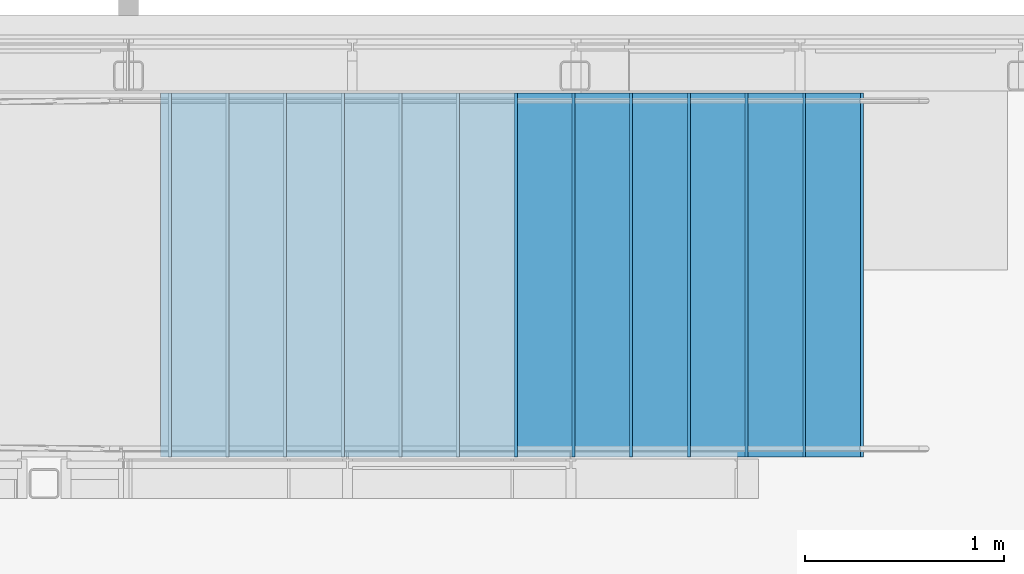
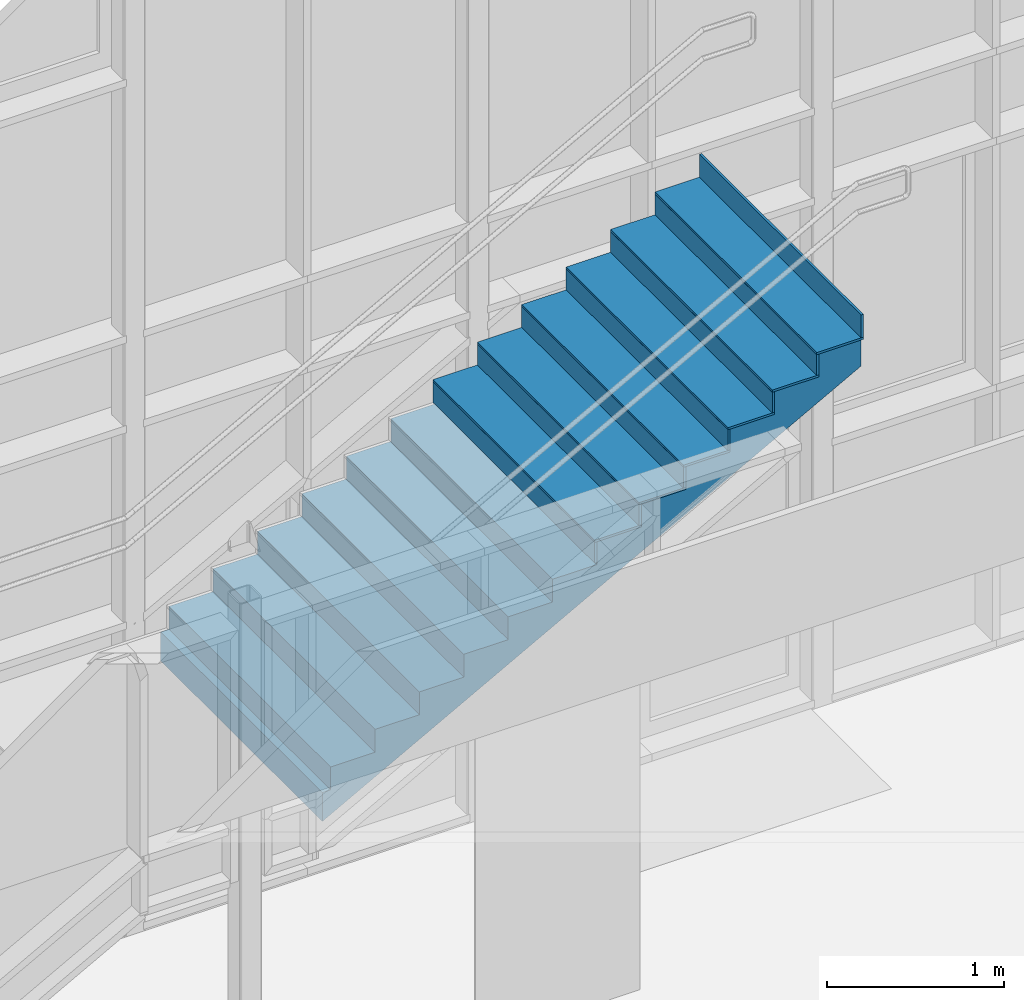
# One storey, part 199 of 301: 14 building element parts, 1 element without a shape of its own.
"""IFC2X3 building model written with IfcOpenShell, lengths in millimetres."""

from ifc_helpers import new_model, entity, si_unit, converted_unit, derived_unit, money_unit, direction, frame, origin_with_axes, place, context, subcontext, project, spatial, faceted_brep, material, element, aggregate, save


model = new_model("IFC2X3")

# Units and contexts
model_context = context("Model", 3, precision=0.01, world=origin_with_axes(), true_north=direction((0.0, 1.0)))
body_context = subcontext(model_context, "Body", "Model", "MODEL_VIEW")
ifc_project = project(units=[si_unit("LENGTHUNIT", "METRE", prefix="MILLI"), si_unit("AREAUNIT", "SQUARE_METRE"), si_unit("VOLUMEUNIT", "CUBIC_METRE"), converted_unit("PLANEANGLEUNIT", "DEGREE", entity("IfcPlaneAngleMeasure", 0.0174532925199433), si_unit("PLANEANGLEUNIT", "RADIAN"), dimensions=[0, 0, 0, 0, 0, 0, 0]), money_unit("EUR"), converted_unit("TIMEUNIT", "Year", entity("IfcTimeMeasure", 31557600.0), si_unit("TIMEUNIT", "SECOND"), dimensions=[0, 0, 1, 0, 0, 0, 0]), si_unit("MASSUNIT", "GRAM", prefix="KILO"), si_unit("THERMODYNAMICTEMPERATUREUNIT", "DEGREE_CELSIUS"), si_unit("LUMINOUSINTENSITYUNIT", "LUMEN"), si_unit("ENERGYUNIT", "JOULE", prefix="MEGA"), derived_unit("THERMALCONDUCTANCEUNIT", [(si_unit("POWERUNIT", "WATT"), 1), (si_unit("LENGTHUNIT", "METRE"), -1), (si_unit("THERMODYNAMICTEMPERATUREUNIT", "KELVIN"), -1)]), derived_unit("SPECIFICHEATCAPACITYUNIT", [(si_unit("ENERGYUNIT", "JOULE"), 1), (si_unit("MASSUNIT", "GRAM", prefix="KILO"), -1), (si_unit("THERMODYNAMICTEMPERATUREUNIT", "KELVIN"), -1)]), derived_unit("MASSDENSITYUNIT", [(si_unit("MASSUNIT", "GRAM", prefix="KILO"), 1), (si_unit("VOLUMEUNIT", "CUBIC_METRE"), -1)])], contexts=[model_context])

# Site, building, storey
site_placement = place(None, frame((0.0, 0.0, 8650.0), z_axis=(0.0, 0.0, 1.0), x_axis=(1.0, 0.0, 0.0)))
site = spatial("IfcSite", under=ifc_project, at=site_placement, Name="43301:001:0844", CompositionType="ELEMENT")
building_placement = place(site_placement, origin_with_axes())
building = spatial("IfcBuilding", under=site, at=building_placement, Name="Kuressaare Ametikooli tuulikute mehaanikute õppekorpus", CompositionType="ELEMENT")
storey_placement = place(building_placement, origin_with_axes())
storey = spatial("IfcBuildingStorey", under=building, at=storey_placement, Name="1.korrus", CompositionType="ELEMENT", Elevation=0.0)

# Stair, building element parts
stair_placement = place(storey_placement, frame((106962.1026822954, 28349.57374875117, 5.294881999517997e-05), z_axis=(0.0, 0.0, 1.0), x_axis=(1.0, 0.0, 0.0)))
stair = element("IfcStair", 1, at=stair_placement, inside=storey, Name="Trepp1", ShapeType="NOTDEFINED")
ifc_material_1 = material(Name="Betoon - C25/30")
building_element_part_1_placement = place(stair_placement, origin_with_axes())
building_element_part_1 = element("IfcBuildingElementPart", 2, at=building_element_part_1_placement, material=ifc_material_1, Name="Betoon - C25/30", context=body_context, shape_type="Brep", body=[
    faceted_brep([(4928.333319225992, 2.492006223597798e-05, 1882.383509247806), (4879.99998523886, -304.9999754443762, 1856.101458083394), (4879.999976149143, 2.492006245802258e-05, 1856.101458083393), (4928.333334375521, -609.9999758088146, 1882.383509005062), (4976.666668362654, -304.9999754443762, 1908.665560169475), (4841.19387589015, 2.422183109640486e-05, 1835.0), (4880.000003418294, -914.9999761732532, 1856.101458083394), (4880.000021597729, -1524.999976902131, 1856.101458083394), (4880.000030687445, -1829.999972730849, 1856.101458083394), (4841.193930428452, -1829.999973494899, 1835.0), (4841.19387589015, 2.422183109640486e-05, 2035.0), (4879.999976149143, 2.492006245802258e-05, 2035.0), (4895.000036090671, 2.492006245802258e-05, 2035.0), (4895.000036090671, 2.492006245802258e-05, 2192.692307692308), (5185.000059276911, 2.273343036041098e-05, 2192.692307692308), (5185.000059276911, 2.273343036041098e-05, 2350.384615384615), (5475.000059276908, 2.054679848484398e-05, 2350.384615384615), (5475.000059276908, 2.054679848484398e-05, 2508.076923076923), (5765.000059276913, 1.836016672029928e-05, 2508.076923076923), (5765.000059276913, 1.836016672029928e-05, 2665.76923076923), (6055.00005927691, 1.617353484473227e-05, 2665.76923076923), (6055.00005927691, 1.617353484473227e-05, 2823.461538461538), (6345.000059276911, 1.398690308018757e-05, 2823.461538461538), (6345.000059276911, 1.398690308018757e-05, 2981.153846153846), (6635.000059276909, 1.180027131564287e-05, 2981.153846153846), (6635.000059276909, 1.180027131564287e-05, 3138.846153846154), (6925.00005927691, 9.613639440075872e-06, 3138.846153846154), (6925.00005927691, 9.613639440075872e-06, 3296.538461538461), (7215.000059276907, 7.427007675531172e-06, 3296.538461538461), (7215.000059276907, 7.427007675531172e-06, 3454.230769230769), (7505.000059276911, 5.240375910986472e-06, 3454.230769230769), (7505.000059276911, 5.240375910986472e-06, 3611.923076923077), (7795.000059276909, 3.05374403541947e-06, 3611.923076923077), (7795.000059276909, 3.05374403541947e-06, 3769.615384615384), (8085.000059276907, 7.540104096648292e-07, 3769.615384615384), (8085.000059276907, 7.540104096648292e-07, 3927.307692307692), (8360.000036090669, -1.319519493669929e-06, 3927.307692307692), (8360.000036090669, 9.802141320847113e-07, 3748.409145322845), (8263.333369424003, 1.709091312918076e-06, 3695.845042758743), (8166.666702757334, 2.437968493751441e-06, 3643.28094019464), (8070.000036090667, 3.166845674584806e-06, 3590.716837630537), (7973.333369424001, 3.895722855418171e-06, 3538.152735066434), (7876.666702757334, 4.624600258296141e-06, 3485.588632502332), (7780.000036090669, 5.353477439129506e-06, 3433.02452993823), (7683.333369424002, 6.082354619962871e-06, 3380.460427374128), (7586.666702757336, 6.811231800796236e-06, 3327.896324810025), (7490.00003609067, 7.540108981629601e-06, 3275.332222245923), (7393.333369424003, 8.268986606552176e-06, 3222.76811968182), (7296.666702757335, 8.99786378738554e-06, 3170.204017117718), (7200.000036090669, 9.726740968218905e-06, 3117.639914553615), (7103.333369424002, 1.045561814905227e-05, 3065.075811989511), (7006.666702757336, 1.118449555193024e-05, 3012.511709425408), (6910.00003609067, 1.191337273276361e-05, 2959.9476068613), (6813.333369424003, 1.264224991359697e-05, 2907.383504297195), (6716.666702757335, 1.337112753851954e-05, 2854.819401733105), (6620.000036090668, 1.410000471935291e-05, 2802.255299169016), (6523.333369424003, 1.482888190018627e-05, 2749.691196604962), (6426.666702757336, 1.555775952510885e-05, 2697.127094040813), (6330.00003609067, 1.628663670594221e-05, 2644.562991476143), (6233.333369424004, 1.701551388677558e-05, 2591.998888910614), (6136.666702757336, 1.774439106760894e-05, 2539.434786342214), (6040.000036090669, 1.84732680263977e-05, 2486.870683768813), (5943.333369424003, 1.920214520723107e-05, 2434.306581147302), (5846.666702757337, 1.993102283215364e-05, 2381.742478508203), (5750.00003609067, 2.065990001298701e-05, 2329.17837580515), (5701.666702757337, 2.102433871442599e-05, 2302.89632448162), (5653.333369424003, 2.138877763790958e-05, 2276.614273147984), (5605.000036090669, 2.175321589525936e-05, 2250.332221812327), (5556.666702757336, 2.211765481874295e-05, 2224.050170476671), (5508.333369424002, 2.248209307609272e-05, 2197.768119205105), (5460.000036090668, 2.284653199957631e-05, 2171.486067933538), (5411.666702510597, 2.321097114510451e-05, 2145.204017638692), (5363.333368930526, 2.357540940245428e-05, 2118.921967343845), (5315.000035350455, 2.393984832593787e-05, 2092.639917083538), (5266.666701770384, 2.430428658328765e-05, 2066.357866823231), (5218.333368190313, 2.466872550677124e-05, 2040.075817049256), (5170.000034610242, 2.492006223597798e-05, 2013.79376727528), (5121.666691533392, 2.492006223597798e-05, 1987.51171529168), (5073.333348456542, 2.492006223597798e-05, 1961.229663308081), (5025.000005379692, 2.492006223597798e-05, 1934.94761186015), (4976.666662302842, 2.492006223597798e-05, 1908.66556041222), (4976.666680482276, -914.9999761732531, 1908.665559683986), (4928.333349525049, -1219.999976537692, 1882.383508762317), (4928.333364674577, -1829.999977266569, 1882.383508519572), (4976.66669866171, -1829.999977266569, 1908.665558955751), (5025.000032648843, -1829.999977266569, 1934.947609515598), (5073.333366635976, -1829.999977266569, 1961.229660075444), (5121.666700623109, -1829.999977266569, 1987.511710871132), (5170.000034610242, -1829.999983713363, 2013.793761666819), (5218.333365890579, -1829.999984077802, 2040.075812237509), (5266.666697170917, -1829.99998444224, 2066.357862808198), (5315.000028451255, -1829.999984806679, 2092.639913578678), (5363.333359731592, -1829.999985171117, 2118.92196434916), (5411.66669101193, -1829.999985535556, 2145.20401503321), (5460.000022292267, -1829.999985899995, 2171.486065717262), (5508.3333556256, -1829.999984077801, 2197.768117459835), (5556.666688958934, -1829.99998444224, 2224.050169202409), (5605.000022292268, -1829.999984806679, 2250.332220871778), (5653.333355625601, -1829.999985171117, 2276.614272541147), (5701.666688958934, -1829.999985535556, 2302.896324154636), (5750.000022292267, -1829.999985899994, 2329.178375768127), (5846.666688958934, -1829.99998444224, 2381.742478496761), (5943.3333556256, -1829.999985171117, 2434.306581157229), (6040.000022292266, -1829.999985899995, 2486.870683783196), (6136.666688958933, -1829.999984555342, 2539.434786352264), (6233.333355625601, -1829.999985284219, 2591.998888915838), (6330.000022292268, -1829.999999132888, 2644.562991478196), (6426.666688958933, -1829.999999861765, 2697.127094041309), (6523.3333556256, -1830.000000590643, 2749.691196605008), (6620.000022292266, -1830.00000131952, 2802.255299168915), (6716.666688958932, -1829.999999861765, 2854.819401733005), (6813.3333556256, -1830.000000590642, 2907.383504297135), (6910.000022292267, -1830.000001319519, 2959.947606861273), (7006.666688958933, -1829.999999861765, 3012.5117094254), (7103.333355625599, -1830.000000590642, 3065.075811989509), (7200.000022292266, -1830.00000131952, 3117.639914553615), (7296.666688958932, -1829.999999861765, 3170.204017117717), (7393.3333556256, -1830.000000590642, 3222.768119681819), (7490.000022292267, -1830.00000131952, 3275.332222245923), (7586.666688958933, -1829.999999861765, 3327.896324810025), (7683.3333556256, -1830.000000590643, 3380.460427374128), (7780.000022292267, -1830.00000131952, 3433.024529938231), (7876.666688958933, -1829.999999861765, 3485.588632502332), (7973.333355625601, -1830.000000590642, 3538.152735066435), (8070.000022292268, -1830.00000131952, 3590.716837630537), (8166.666688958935, -1829.999999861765, 3643.28094019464), (8263.333355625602, -1830.000000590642, 3695.845042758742), (8360.000022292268, -1830.00000131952, 3748.409145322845), (8360.000022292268, -1830.00000131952, 3927.307692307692), (8085.000045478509, -1829.99999924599, 3927.307692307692), (8085.000045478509, -1829.99999924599, 3769.615384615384), (7795.000045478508, -1829.999997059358, 3769.615384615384), (7795.000045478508, -1829.999997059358, 3611.923076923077), (7505.000045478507, -1829.999994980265, 3611.923076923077), (7505.000045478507, -1829.999994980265, 3454.230769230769), (7215.000045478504, -1829.999992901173, 3454.230769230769), (7215.000045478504, -1829.999992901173, 3296.538461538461), (6925.000045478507, -1829.99999082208, 3296.538461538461), (6925.000045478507, -1829.99999082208, 3138.846153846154), (6635.000045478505, -1829.999988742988, 3138.846153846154), (6635.000045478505, -1829.999988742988, 2981.153846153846), (6345.000045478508, -1829.999986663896, 2981.153846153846), (6345.000045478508, -1829.999986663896, 2823.461538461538), (6055.000045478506, -1829.999984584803, 2823.461538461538), (6055.000045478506, -1829.999984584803, 2665.76923076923), (5765.000045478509, -1829.999981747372, 2665.76923076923), (5765.000045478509, -1829.999981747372, 2508.076923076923), (5475.000045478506, -1829.99997966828, 2508.076923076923), (5475.000045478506, -1829.99997966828, 2350.384615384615), (5185.000045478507, -1829.999977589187, 2350.384615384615), (5185.000045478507, -1829.999977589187, 2192.692307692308), (4895.000068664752, -1829.999977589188, 2192.692307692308), (4895.000068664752, -1829.999977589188, 2035.0), (4880.000030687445, -1829.999972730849, 2035.0), (4841.193930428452, -1829.999973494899, 2035.0), (5750.000029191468, -914.9999826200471, 2329.178375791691), (5750.000033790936, -304.9999804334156, 2329.178375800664), (5750.000024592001, -1524.999984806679, 2329.178375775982), (5653.333367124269, -304.9999797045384, 2276.614273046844), (5556.666700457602, -304.9999789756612, 2224.050170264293), (5460.000033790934, -304.9999786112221, 2171.486067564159), (5363.33336739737, -304.9999778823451, 2118.92196684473), (5266.666701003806, -304.9999771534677, 2066.357866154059), (5170.000034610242, -304.9999764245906, 2013.793766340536), (5073.333351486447, -304.9999754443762, 1961.229662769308), (5025.00001446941, -609.9999758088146, 1934.947611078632), (4976.666692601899, -1524.999976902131, 1908.665559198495), (5073.33336360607, -1524.999976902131, 1961.229660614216), (5170.000034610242, -1524.999982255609, 2013.793762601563), (5266.666697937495, -1524.999982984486, 2066.35786347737), (5363.333361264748, -1524.999983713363, 2118.921964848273), (5460.000024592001, -1524.99998444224, 2171.486066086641), (5556.666691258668, -1524.999983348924, 2224.050169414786), (5653.333357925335, -1524.999984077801, 2276.614272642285), (5701.666698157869, -609.9999811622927, 2302.896324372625), (5701.666693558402, -1219.999983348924, 2302.896324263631), (5605.000031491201, -609.9999804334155, 2250.332221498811), (5508.333364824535, -609.9999797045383, 2197.768118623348), (5411.666698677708, -609.9999797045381, 2145.204016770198), (5315.000033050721, -609.999978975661, 2092.639915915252), (5218.333367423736, -609.9999782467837, 2040.07581544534), (5121.666694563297, -609.9999758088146, 1987.511713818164), (5025.000023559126, -1219.999976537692, 1934.947610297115), (5073.333357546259, -914.9999761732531, 1961.229661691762), (5121.666697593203, -1219.999976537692, 1987.511712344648), (5218.333366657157, -1219.999981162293, 2040.075813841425), (5315.000030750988, -1219.99998189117, 2092.639914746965), (5411.666694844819, -1219.999982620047, 2145.204015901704), (5508.333360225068, -1219.99998189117, 2197.768118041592), (5605.000026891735, -1219.999982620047, 2250.332221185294), (5653.333362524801, -914.9999818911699, 2276.614272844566), (5556.666695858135, -914.9999811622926, 2224.050169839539), (5460.000029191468, -914.9999815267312, 2171.4860668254), (5363.333364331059, -914.999980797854, 2118.921965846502), (5266.666699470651, -914.999980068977, 2066.357864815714), (5170.000034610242, -914.9999793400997, 2013.793764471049)], [[[0, 1, 2]], [[3, 1, 0, 4]], [[5, 2, 1, 6, 7, 8, 9]], [[10, 11, 12, 13, 14, 15, 16, 17, 18, 19, 20, 21, 22, 23, 24, 25, 26, 27, 28, 29, 30, 31, 32, 33, 34, 35, 36, 37, 38, 39, 40, 41, 42, 43, 44, 45, 46, 47, 48, 49, 50, 51, 52, 53, 54, 55, 56, 57, 58, 59, 60, 61, 62, 63, 64, 65, 66, 67, 68, 69, 70, 71, 72, 73, 74, 75, 76, 77, 78, 79, 80, 0, 2, 5]], [[3, 6, 1]], [[80, 4, 0]], [[81, 3, 4]], [[82, 7, 6]], [[83, 8, 7]], [[9, 8, 83, 84, 85, 86, 87, 88, 89, 90, 91, 92, 93, 94, 95, 96, 97, 98, 99, 100, 101, 102, 103, 104, 105, 106, 107, 108, 109, 110, 111, 112, 113, 114, 115, 116, 117, 118, 119, 120, 121, 122, 123, 124, 125, 126, 127, 128, 129, 130, 131, 132, 133, 134, 135, 136, 137, 138, 139, 140, 141, 142, 143, 144, 145, 146, 147, 148, 149, 150, 151, 152, 153, 154]], [[5, 9, 154, 10]], [[154, 153, 152, 12, 11, 10]], [[13, 12, 152, 151]], [[14, 13, 151, 150]], [[15, 14, 150, 149]], [[16, 15, 149, 148]], [[17, 16, 148, 147]], [[18, 17, 147, 146]], [[19, 18, 146, 145]], [[20, 19, 145, 144]], [[21, 20, 144, 143]], [[22, 21, 143, 142]], [[23, 22, 142, 141]], [[24, 23, 141, 140]], [[25, 24, 140, 139]], [[26, 25, 139, 138]], [[27, 26, 138, 137]], [[28, 27, 137, 136]], [[29, 28, 136, 135]], [[30, 29, 135, 134]], [[31, 30, 134, 133]], [[32, 31, 133, 132]], [[33, 32, 132, 131]], [[34, 33, 131, 130]], [[35, 34, 130, 129]], [[129, 128, 36, 35]], [[36, 128, 127, 37]], [[126, 38, 37, 127]], [[126, 125, 39, 38]], [[125, 124, 40, 39]], [[124, 123, 41, 40]], [[123, 122, 42, 41]], [[122, 121, 43, 42]], [[121, 120, 44, 43]], [[120, 119, 45, 44]], [[119, 118, 46, 45]], [[118, 117, 47, 46]], [[117, 116, 48, 47]], [[116, 115, 49, 48]], [[115, 114, 50, 49]], [[114, 113, 51, 50]], [[113, 112, 52, 51]], [[112, 111, 53, 52]], [[111, 110, 54, 53]], [[110, 109, 55, 54]], [[109, 108, 56, 55]], [[108, 107, 57, 56]], [[107, 106, 58, 57]], [[106, 105, 59, 58]], [[105, 104, 60, 59]], [[104, 103, 61, 60]], [[103, 102, 62, 61]], [[102, 101, 63, 62]], [[155, 156, 64, 63, 101, 100, 157]], [[64, 156, 65]], [[65, 158, 66]], [[66, 158, 67]], [[67, 159, 68]], [[68, 159, 69]], [[69, 160, 70]], [[70, 160, 71]], [[71, 161, 72]], [[72, 161, 73]], [[73, 162, 74]], [[74, 162, 75]], [[75, 163, 76]], [[76, 163, 77]], [[77, 164, 78]], [[78, 164, 79]], [[79, 4, 80]], [[6, 3, 81, 82]], [[165, 81, 4]], [[7, 82, 166, 83]], [[83, 166, 84]], [[84, 166, 85]], [[85, 167, 86]], [[86, 167, 87]], [[87, 168, 88]], [[88, 168, 89]], [[89, 169, 90]], [[90, 169, 91]], [[91, 170, 92]], [[92, 170, 93]], [[93, 171, 94]], [[94, 171, 95]], [[95, 172, 96]], [[96, 172, 97]], [[97, 173, 98]], [[98, 173, 99]], [[99, 157, 100]], [[156, 155, 174]], [[157, 175, 155]], [[158, 65, 156, 174]], [[159, 67, 158, 176]], [[177, 160, 69, 159]], [[178, 161, 71, 160]], [[162, 73, 161, 179]], [[163, 75, 162, 180]], [[164, 77, 163, 181]], [[165, 4, 79, 164]], [[166, 82, 81]], [[182, 81, 165, 183]], [[166, 182, 167, 85]], [[87, 167, 184, 168]], [[89, 168, 185, 169]], [[169, 186, 170, 91]], [[93, 170, 187, 171]], [[171, 188, 172, 95]], [[97, 172, 189, 173]], [[99, 173, 175, 157]], [[190, 174, 155, 175]], [[174, 190, 158]], [[190, 176, 158]], [[191, 159, 176]], [[177, 192, 160]], [[159, 191, 177]], [[193, 161, 178]], [[192, 178, 160]], [[161, 193, 179]], [[179, 194, 162]], [[194, 180, 162]], [[195, 163, 180]], [[163, 195, 181]], [[181, 183, 164]], [[164, 183, 165]], [[166, 81, 182]], [[167, 182, 183]], [[184, 167, 183]], [[195, 168, 184]], [[185, 168, 195]], [[169, 185, 194]], [[186, 169, 194]], [[193, 170, 186]], [[170, 193, 187]], [[192, 171, 187]], [[171, 192, 188]], [[191, 172, 188]], [[172, 191, 189]], [[173, 189, 190]], [[175, 173, 190]], [[189, 191, 176, 190]], [[192, 177, 191, 188]], [[193, 178, 192, 187]], [[186, 194, 179, 193]], [[185, 195, 180, 194]], [[183, 181, 195, 184]]]),
])
ifc_material_2 = material(Name="GENEERILINE - SISEMINE VIIMISTLUS")
building_element_part_2_placement = place(stair_placement, origin_with_axes())
building_element_part_2 = element("IfcBuildingElementPart", 3, at=building_element_part_2_placement, material=ifc_material_2, Name="GENEERILINE - SISEMINE VIIMISTLUS", context=body_context, shape_type="Brep", body=[
    faceted_brep([(6910.000022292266, -1829.999990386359, 3296.538461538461), (6925.000022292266, -1829.999990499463, 3296.538461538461), (6925.000036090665, 9.500539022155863e-06, 3296.538461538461), (6910.000036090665, 9.613639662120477e-06, 3296.538461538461), (6910.000022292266, -1829.999990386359, 3153.846153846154), (6925.000022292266, -1829.999990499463, 3153.846153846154), (6925.000036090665, 9.500539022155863e-06, 3153.846153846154), (6910.000036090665, 9.613639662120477e-06, 3153.846153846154)], [[[0, 1, 2, 3]], [[0, 4, 5, 1]], [[1, 5, 6, 2]], [[3, 2, 6, 7]], [[4, 0, 3, 7]], [[5, 4, 7, 6]]]),
])
building_element_part_3_placement = place(stair_placement, origin_with_axes())
building_element_part_3 = element("IfcBuildingElementPart", 4, at=building_element_part_3_placement, material=ifc_material_2, Name="GENEERILINE - SISEMINE VIIMISTLUS", context=body_context, shape_type="Brep", body=[
    faceted_brep([(6620.000022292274, -1829.999988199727, 3138.846153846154), (6635.000022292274, -1829.999988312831, 3138.846153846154), (6635.000036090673, 1.168717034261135e-05, 3138.846153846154), (6620.000036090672, 1.180027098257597e-05, 3138.846153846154), (6620.000022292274, -1829.999988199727, 2996.153846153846), (6635.000022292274, -1829.999988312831, 2996.153846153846), (6635.000036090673, 1.168717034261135e-05, 2996.153846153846), (6620.000036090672, 1.180027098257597e-05, 2996.153846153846)], [[[0, 1, 2, 3]], [[0, 4, 5, 1]], [[1, 5, 6, 2]], [[3, 2, 6, 7]], [[4, 0, 3, 7]], [[5, 4, 7, 6]]]),
])
building_element_part_4_placement = place(stair_placement, origin_with_axes())
building_element_part_4 = element("IfcBuildingElementPart", 5, at=building_element_part_4_placement, material=ifc_material_2, Name="GENEERILINE - SISEMINE VIIMISTLUS", context=body_context, shape_type="Brep", body=[
    faceted_brep([(7200.000022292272, -1829.99999257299, 3454.230769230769), (7215.000022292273, -1829.999992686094, 3454.230769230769), (7215.000036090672, 7.313907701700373e-06, 3454.230769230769), (7200.000036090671, 7.427008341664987e-06, 3454.230769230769), (7200.000022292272, -1829.99999257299, 3311.538461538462), (7215.000022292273, -1829.999992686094, 3311.538461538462), (7215.000036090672, 7.313907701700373e-06, 3311.538461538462), (7200.000036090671, 7.427008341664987e-06, 3311.538461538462)], [[[0, 1, 2, 3]], [[0, 4, 5, 1]], [[1, 5, 6, 2]], [[3, 2, 6, 7]], [[4, 0, 3, 7]], [[5, 4, 7, 6]]]),
])
building_element_part_5_placement = place(stair_placement, origin_with_axes())
building_element_part_5 = element("IfcBuildingElementPart", 6, at=building_element_part_5_placement, material=ifc_material_2, Name="GENEERILINE - SISEMINE VIIMISTLUS", context=body_context, shape_type="Brep", body=[
    faceted_brep([(7780.000022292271, -1829.999996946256, 3769.615384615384), (7795.000022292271, -1829.99999705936, 3769.615384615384), (7795.00003609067, 2.940641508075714e-06, 3769.615384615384), (7780.00003609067, 3.053742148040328e-06, 3769.615384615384), (7780.000022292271, -1829.999996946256, 3626.923076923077), (7795.000022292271, -1829.99999705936, 3626.923076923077), (7795.00003609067, 2.940641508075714e-06, 3626.923076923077), (7780.00003609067, 3.053742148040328e-06, 3626.923076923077)], [[[0, 1, 2, 3]], [[0, 4, 5, 1]], [[1, 5, 6, 2]], [[3, 2, 6, 7]], [[4, 0, 3, 7]], [[5, 4, 7, 6]]]),
])
building_element_part_6_placement = place(stair_placement, origin_with_axes())
building_element_part_6 = element("IfcBuildingElementPart", 7, at=building_element_part_6_placement, material=ifc_material_2, Name="GENEERILINE - SISEMINE VIIMISTLUS", context=body_context, shape_type="Brep", body=[
    faceted_brep([(7490.000022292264, -1829.999994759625, 3611.923076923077), (7505.000022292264, -1829.999994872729, 3611.923076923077), (7505.000036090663, 5.127272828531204e-06, 3611.923076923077), (7490.000036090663, 5.240373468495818e-06, 3611.923076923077), (7490.000022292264, -1829.999994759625, 3469.230769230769), (7505.000022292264, -1829.999994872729, 3469.230769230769), (7505.000036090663, 5.127272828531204e-06, 3469.230769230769), (7490.000036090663, 5.240373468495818e-06, 3469.230769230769)], [[[0, 1, 2, 3]], [[0, 4, 5, 1]], [[1, 5, 6, 2]], [[3, 2, 6, 7]], [[4, 0, 3, 7]], [[5, 4, 7, 6]]]),
])
building_element_part_7_placement = place(stair_placement, origin_with_axes())
building_element_part_7 = element("IfcBuildingElementPart", 8, at=building_element_part_7_placement, material=ifc_material_2, Name="GENEERILINE - SISEMINE VIIMISTLUS", context=body_context, shape_type="Brep", body=[
    faceted_brep([(8070.000022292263, -1829.999999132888, 3927.307692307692), (8085.000022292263, -1829.999999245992, 3927.307692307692), (8085.000036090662, 7.540101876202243e-07, 3927.307692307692), (8070.000036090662, 8.671108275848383e-07, 3927.307692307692), (8070.000022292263, -1829.999999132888, 3784.615384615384), (8085.000022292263, -1829.999999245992, 3784.615384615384), (8085.000036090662, 7.540101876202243e-07, 3784.615384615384), (8070.000036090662, 8.671108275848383e-07, 3784.615384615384)], [[[0, 1, 2, 3]], [[0, 4, 5, 1]], [[1, 5, 6, 2]], [[3, 2, 6, 7]], [[4, 0, 3, 7]], [[5, 4, 7, 6]]]),
])
building_element_part_8_placement = place(stair_placement, origin_with_axes())
building_element_part_8 = element("IfcBuildingElementPart", 9, at=building_element_part_8_placement, material=ifc_material_2, Name="GENEERILINE - SISEMINE VIIMISTLUS", context=body_context, shape_type="Brep", body=[
    faceted_brep([(8360.000022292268, -1830.000001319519, 4100.0), (8375.00002229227, -1830.000001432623, 4100.0), (8375.000036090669, -1.432621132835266e-06, 4100.0), (8360.000036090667, -1.319520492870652e-06, 4100.0), (8360.000022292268, -1830.000001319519, 3942.307692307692), (8375.00002229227, -1830.000001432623, 3942.307692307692), (8375.000036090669, -1.432621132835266e-06, 3942.307692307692), (8360.000036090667, -1.319520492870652e-06, 3942.307692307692)], [[[0, 1, 2, 3]], [[0, 4, 5, 1]], [[1, 5, 6, 2]], [[3, 2, 6, 7]], [[4, 0, 3, 7]], [[5, 4, 7, 6]]]),
])
building_element_part_9_placement = place(stair_placement, origin_with_axes())
building_element_part_9 = element("IfcBuildingElementPart", 10, at=building_element_part_9_placement, material=ifc_material_2, Name="GENEERILINE - SISEMINE VIIMISTLUS", context=body_context, shape_type="Brep", body=[
    faceted_brep([(6620.000036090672, 1.180027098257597e-05, 3138.846153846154), (6620.000022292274, -1829.999988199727, 3138.846153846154), (6620.000022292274, -1829.999988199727, 3153.846153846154), (6620.000036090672, 1.180027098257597e-05, 3153.846153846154), (6925.000024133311, 9.500539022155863e-06, 3138.846153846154), (6925.000024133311, -1829.999990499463, 3138.846153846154), (6925.000024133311, -1829.999990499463, 3153.846153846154), (6925.000024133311, 9.500539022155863e-06, 3153.846153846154)], [[[0, 1, 2, 3]], [[0, 4, 5, 1]], [[1, 5, 6, 2]], [[3, 2, 6, 7]], [[4, 0, 3, 7]], [[5, 4, 7, 6]]]),
])
building_element_part_10_placement = place(stair_placement, origin_with_axes())
building_element_part_10 = element("IfcBuildingElementPart", 11, at=building_element_part_10_placement, material=ifc_material_2, Name="GENEERILINE - SISEMINE VIIMISTLUS", context=body_context, shape_type="Brep", body=[
    faceted_brep([(6910.000036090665, 9.613639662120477e-06, 3296.538461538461), (6910.000022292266, -1829.999990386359, 3296.538461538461), (6910.000022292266, -1829.999990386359, 3311.538461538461), (6910.000036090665, 9.613639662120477e-06, 3311.538461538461), (7215.000023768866, 7.313907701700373e-06, 3296.538461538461), (7215.000023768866, -1829.999992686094, 3296.538461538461), (7215.000023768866, -1829.999992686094, 3311.538461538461), (7215.000023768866, 7.313907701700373e-06, 3311.538461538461)], [[[0, 1, 2, 3]], [[0, 4, 5, 1]], [[1, 5, 6, 2]], [[3, 2, 6, 7]], [[4, 0, 3, 7]], [[5, 4, 7, 6]]]),
])
building_element_part_11_placement = place(stair_placement, origin_with_axes())
building_element_part_11 = element("IfcBuildingElementPart", 12, at=building_element_part_11_placement, material=ifc_material_2, Name="GENEERILINE - SISEMINE VIIMISTLUS", context=body_context, shape_type="Brep", body=[
    faceted_brep([(7200.000036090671, 7.427008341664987e-06, 3454.230769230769), (7200.000022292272, -1829.99999257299, 3454.230769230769), (7200.000022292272, -1829.99999257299, 3469.23076923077), (7200.000036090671, 7.427008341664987e-06, 3469.23076923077), (7505.000023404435, 5.127276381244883e-06, 3454.230769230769), (7505.000023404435, -1829.999994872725, 3454.230769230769), (7505.000023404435, -1829.999994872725, 3469.23076923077), (7505.000023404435, 5.127276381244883e-06, 3469.23076923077)], [[[0, 1, 2, 3]], [[0, 4, 5, 1]], [[1, 5, 6, 2]], [[3, 2, 6, 7]], [[4, 0, 3, 7]], [[5, 4, 7, 6]]]),
])
building_element_part_12_placement = place(stair_placement, origin_with_axes())
building_element_part_12 = element("IfcBuildingElementPart", 13, at=building_element_part_12_placement, material=ifc_material_2, Name="GENEERILINE - SISEMINE VIIMISTLUS", context=body_context, shape_type="Brep", body=[
    faceted_brep([(7780.00003609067, 3.053742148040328e-06, 3769.615384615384), (7780.000022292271, -1829.999996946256, 3769.615384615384), (7780.000022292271, -1829.999996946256, 3784.615384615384), (7780.00003609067, 3.053742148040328e-06, 3784.615384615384), (8085.000022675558, 7.540101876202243e-07, 3769.615384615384), (8085.000022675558, -1829.999999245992, 3769.615384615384), (8085.000022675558, -1829.999999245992, 3784.615384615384), (8085.000022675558, 7.540101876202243e-07, 3784.615384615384)], [[[0, 1, 2, 3]], [[0, 4, 5, 1]], [[1, 5, 6, 2]], [[3, 2, 6, 7]], [[4, 0, 3, 7]], [[5, 4, 7, 6]]]),
])
building_element_part_13_placement = place(stair_placement, origin_with_axes())
building_element_part_13 = element("IfcBuildingElementPart", 14, at=building_element_part_13_placement, material=ifc_material_2, Name="GENEERILINE - SISEMINE VIIMISTLUS", context=body_context, shape_type="Brep", body=[
    faceted_brep([(7490.000036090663, 5.240373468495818e-06, 3611.923076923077), (7490.000022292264, -1829.999994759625, 3611.923076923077), (7490.000022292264, -1829.999994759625, 3626.923076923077), (7490.000036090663, 5.240373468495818e-06, 3626.923076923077), (7795.000023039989, 2.940641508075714e-06, 3611.923076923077), (7795.000023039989, -1829.99999705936, 3611.923076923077), (7795.000023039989, -1829.99999705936, 3626.923076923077), (7795.000023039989, 2.940641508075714e-06, 3626.923076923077)], [[[0, 1, 2, 3]], [[0, 4, 5, 1]], [[1, 5, 6, 2]], [[3, 2, 6, 7]], [[4, 0, 3, 7]], [[5, 4, 7, 6]]]),
])
building_element_part_14_placement = place(stair_placement, origin_with_axes())
building_element_part_14 = element("IfcBuildingElementPart", 15, at=building_element_part_14_placement, material=ifc_material_2, Name="GENEERILINE - SISEMINE VIIMISTLUS", context=body_context, shape_type="Brep", body=[
    faceted_brep([(8070.000036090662, 8.671108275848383e-07, 3927.307692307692), (8070.000022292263, -1829.999999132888, 3927.307692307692), (8070.000022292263, -1829.999999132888, 3942.307692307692), (8070.000036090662, 8.671108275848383e-07, 3942.307692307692), (8360.000036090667, -1.319520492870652e-06, 3927.307692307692), (8375.000036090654, -1.432621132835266e-06, 3927.307692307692), (8375.000022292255, -1830.000001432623, 3927.307692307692), (8360.000022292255, -1830.000001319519, 3927.307692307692), (8360.000022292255, -1830.000001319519, 3942.307692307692), (8375.000022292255, -1830.000001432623, 3942.307692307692), (8375.000036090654, -1.432621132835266e-06, 3942.307692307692), (8360.000036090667, -1.319520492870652e-06, 3942.307692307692)], [[[0, 1, 2, 3]], [[0, 4, 5, 6, 7, 1]], [[1, 7, 8, 2]], [[3, 2, 8, 9, 10, 11]], [[4, 0, 3, 11]], [[5, 4, 11, 10]], [[6, 5, 10, 9]], [[7, 6, 9, 8]]]),
])
aggregate(stair, [building_element_part_1, building_element_part_2, building_element_part_3, building_element_part_4, building_element_part_5, building_element_part_6, building_element_part_7, building_element_part_8, building_element_part_9, building_element_part_10, building_element_part_11, building_element_part_12, building_element_part_13, building_element_part_14])

save(model, "model.ifc")
